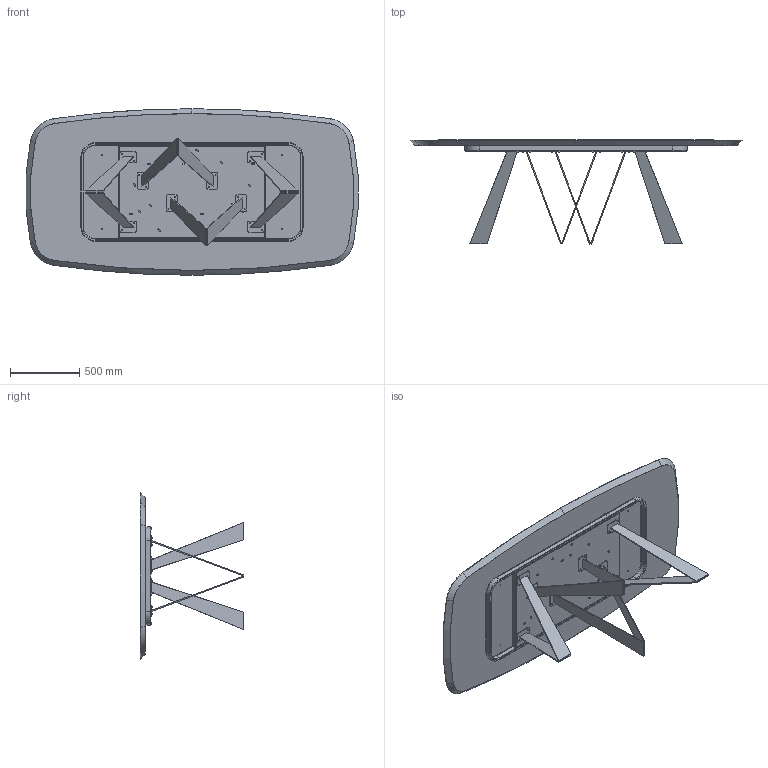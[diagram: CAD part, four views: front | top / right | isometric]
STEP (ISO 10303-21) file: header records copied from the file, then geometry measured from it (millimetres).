
FILE_DESCRIPTION (( 'STEP AP203' ), '1' );
FILE_NAME ('NO43W_Noa_240x120x75h_Wood Shaped.STEP', '2024-08-07T14:27:39', ( '' ), ( '' ), 'SwSTEP 2.0', 'SolidWorks 2022', '' );
FILE_SCHEMA (( 'CONFIG_CONTROL_DESIGN' ));
Length unit declared in the file: millimetre
Products named in the file (15): NOA000001GMB-00-Piastra Principale gamba NOA_Piatto DX; M8xXXmm_M8x16mm; MAPPA; rondella M8_8X16; TTAV06_02-01-VASSOIO TAVOLI PLAI ONDA NOA 240; M8xXXmm_M8x55mm; NOA000001PTRS-00-Piastra rettangoalre con fori; TTAV06_01-01-STRUTTURA X TAVOLI PLAI ONDA NOA 240_Default<A macchina>; Assieme NOA var 3_noa 200-240; W4XCMXX-00-Piani Sagomati legno_2400 x 1200; 434070-00-PIEDINO TPV GOMMA NERO D. 30x8max18; NOA000000-00-NOA BASE GREZZA; TTAV06-01-TELAIO X TAVOLI PLAI ONDA NOA 240cm_TTAV06; NOA000001GMB-00-Piastra Principale gamba NOA_Piatto SX; NO43W_Noa_240x120x75h_Wood Shaped
Assembly tree (55 placements, depth 4):
  MAPPA
  NO43W_Noa_240x120x75h_Wood Shaped
    W4XCMXX-00-Piani Sagomati legno_2400 x 1200
    Assieme NOA var 3_noa 200-240
      NOA000000-00-NOA BASE GREZZA  x4
        NOA000001GMB-00-Piastra Principale gamba NOA_Piatto SX
        NOA000001GMB-00-Piastra Principale gamba NOA_Piatto DX
        NOA000001PTRS-00-Piastra rettangoalre con fori
      TTAV06-01-TELAIO X TAVOLI PLAI ONDA NOA 240cm_TTAV06
        TTAV06_02-01-VASSOIO TAVOLI PLAI ONDA NOA 240
        TTAV06_01-01-STRUTTURA X TAVOLI PLAI ONDA NOA 240_Default<A macchina>
    M8xXXmm_M8x55mm  x4
    rondella M8_8X16  x20
    M8xXXmm_M8x16mm  x16
    434070-00-PIEDINO TPV GOMMA NERO D. 30x8max18  x2
Bounding box: 2391.9 x 747.8 x 1200 mm (x, y, z)
Volume: 106117317.4 mm3; surface area: 9470281.5 mm2
Topology: 70 solids, 70 shells, 1695 faces, 3882 edges, 2292 vertices
Faces by surface type: plane 632, cylinder 435, cone 339, torus 289
Entity records: 23372 total; most frequent: DIRECTION 3864, CARTESIAN_POINT 3600, ORIENTED_EDGE 3352, EDGE_CURVE 1676, AXIS2_PLACEMENT_3D 1476, VERTEX_POINT 1040, LINE 912, VECTOR 912
